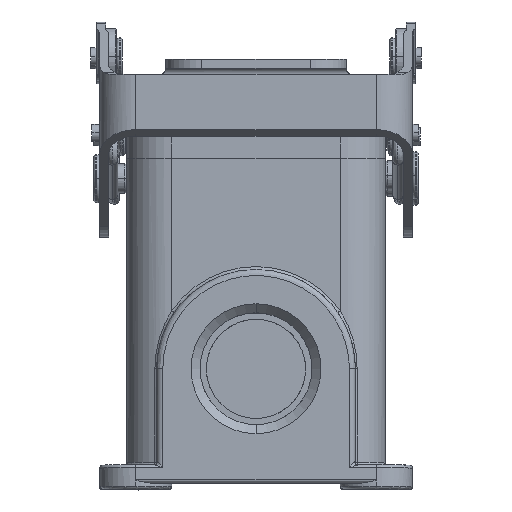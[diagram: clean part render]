
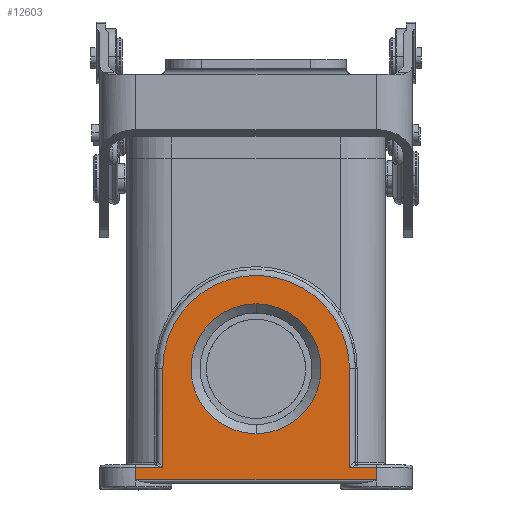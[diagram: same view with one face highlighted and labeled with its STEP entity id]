
A CAD part, top view. The second image highlights one B-rep face of the part: STEP entity #12603.
In plain terms, the highlighted planar face has unit normal (0, 0, 1).
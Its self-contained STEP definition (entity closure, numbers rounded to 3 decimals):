
#1038 = VECTOR ( 'NONE', #30798, 1000. ) ;
#1464 = EDGE_LOOP ( 'NONE', ( #28625, #1999, #10820, #27674, #27957, #6984, #19103, #20120 ) ) ;
#1999 = ORIENTED_EDGE ( 'NONE', *, *, #35138, .T. ) ;
#2131 = CARTESIAN_POINT ( 'NONE',  ( -20., 0., 47. ) ) ;
#2224 = DIRECTION ( 'NONE',  ( -1., 0., 0. ) ) ;
#2284 = VERTEX_POINT ( 'NONE', #11777 ) ;
#2826 = CARTESIAN_POINT ( 'NONE',  ( -15.5, 19., 47. ) ) ;
#3610 = CARTESIAN_POINT ( 'NONE',  ( 15.5, 19., 47. ) ) ;
#4159 = CARTESIAN_POINT ( 'NONE',  ( -15.5, 0., 47. ) ) ;
#4351 = CARTESIAN_POINT ( 'NONE',  ( -20.187, 2.5, 47. ) ) ;
#5042 = DIRECTION ( 'NONE',  ( 1., 0., 0. ) ) ;
#5348 = CARTESIAN_POINT ( 'NONE',  ( 20.266, 0.5, 47. ) ) ;
#5458 = CARTESIAN_POINT ( 'NONE',  ( 15.5, 2.5, 47. ) ) ;
#5465 = EDGE_CURVE ( 'NONE', #12465, #15051, #16905, .T. ) ;
#5919 = EDGE_LOOP ( 'NONE', ( #34493, #11196 ) ) ;
#6519 = CARTESIAN_POINT ( 'NONE',  ( -15.5, 50., 47. ) ) ;
#6652 = CARTESIAN_POINT ( 'NONE',  ( 15.5, 50., 47. ) ) ;
#6984 = ORIENTED_EDGE ( 'NONE', *, *, #14767, .F. ) ;
#7216 = DIRECTION ( 'NONE',  ( 0., -1., 0. ) ) ;
#7300 = CARTESIAN_POINT ( 'NONE',  ( 0., 19., 47. ) ) ;
#7849 = VERTEX_POINT ( 'NONE', #31029 ) ;
#7994 = CARTESIAN_POINT ( 'NONE',  ( -15.5, 2.5, 47. ) ) ;
#8303 = LINE ( 'NONE', #33914, #32239 ) ;
#9127 = DIRECTION ( 'NONE',  ( 0., 0., -1. ) ) ;
#9587 = CARTESIAN_POINT ( 'NONE',  ( -15.5, 19., 47. ) ) ;
#9762 = CARTESIAN_POINT ( 'NONE',  ( 20., 2.5, 47. ) ) ;
#10490 = DIRECTION ( 'NONE',  ( 0., -1., 0. ) ) ;
#10619 = VERTEX_POINT ( 'NONE', #2826 ) ;
#10820 = ORIENTED_EDGE ( 'NONE', *, *, #21843, .F. ) ;
#11196 = ORIENTED_EDGE ( 'NONE', *, *, #36127, .T. ) ;
#11777 = CARTESIAN_POINT ( 'NONE',  ( 20., 0.5, 47. ) ) ;
#12406 = CARTESIAN_POINT ( 'NONE',  ( 15.5, 19., 47. ) ) ;
#12465 = VERTEX_POINT ( 'NONE', #27443 ) ;
#12511 = VECTOR ( 'NONE', #2224, 1000. ) ;
#12603 = ADVANCED_FACE ( 'NONE', ( #19305, #32816 ), #16601, .T. ) ;
#13089 = EDGE_CURVE ( 'NONE', #14765, #34318, #24679, .T. ) ;
#13406 = CARTESIAN_POINT ( 'NONE',  ( 0., 29.8, 47. ) ) ;
#14113 = VECTOR ( 'NONE', #7216, 1000. ) ;
#14280 = EDGE_CURVE ( 'NONE', #22885, #2284, #17377, .T. ) ;
#14578 = CARTESIAN_POINT ( 'NONE',  ( 15.5, 0., 47. ) ) ;
#14765 = VERTEX_POINT ( 'NONE', #30643 ) ;
#14767 = EDGE_CURVE ( 'NONE', #7849, #12465, #8303, .T. ) ;
#15051 = VERTEX_POINT ( 'NONE', #7994 ) ;
#15132 = LINE ( 'NONE', #5348, #20991 ) ;
#16601 = PLANE ( 'NONE',  #29032 ) ;
#16905 = LINE ( 'NONE', #4351, #1038 ) ;
#17377 = LINE ( 'NONE', #33594, #33628 ) ;
#18161 = LINE ( 'NONE', #4159, #14113 ) ;
#19103 = ORIENTED_EDGE ( 'NONE', *, *, #21099, .F. ) ;
#19305 = FACE_BOUND ( 'NONE', #5919, .T. ) ;
#19477 = CARTESIAN_POINT ( 'NONE',  ( -20., 2.5, 47. ) ) ;
#20120 = ORIENTED_EDGE ( 'NONE', *, *, #14280, .F. ) ;
#20128 = DIRECTION ( 'NONE',  ( 0., 1., 0. ) ) ;
#20201 = LINE ( 'NONE', #19477, #12511 ) ;
#20991 = VECTOR ( 'NONE', #34279, 1000. ) ;
#21099 = EDGE_CURVE ( 'NONE', #2284, #7849, #15132, .T. ) ;
#21372 = DIRECTION ( 'NONE',  ( 0., -1., 0. ) ) ;
#21843 = EDGE_CURVE ( 'NONE', #10619, #26948, #26757, .T. ) ;
#22386 = DIRECTION ( 'NONE',  ( 0., 0., 1. ) ) ;
#22885 = VERTEX_POINT ( 'NONE', #9762 ) ;
#22936 = EDGE_CURVE ( 'NONE', #10619, #15051, #18161, .T. ) ;
#23418 = DIRECTION ( 'NONE',  ( 0., -1., 0. ) ) ;
#24679 = CIRCLE ( 'NONE', #33414, 10.8 ) ;
#26757 =( BOUNDED_CURVE ( )  B_SPLINE_CURVE ( 3, ( #9587, #6519, #6652, #3610 ),
 .UNSPECIFIED., .F., .F. ) 
 B_SPLINE_CURVE_WITH_KNOTS ( ( 4, 4 ),
 ( 0., 1. ),
 .UNSPECIFIED. ) 
 CURVE ( )  GEOMETRIC_REPRESENTATION_ITEM ( )  RATIONAL_B_SPLINE_CURVE ( ( 1., 0.333, 0.333, 1. ) ) 
 REPRESENTATION_ITEM ( '' )  );
#26948 = VERTEX_POINT ( 'NONE', #12406 ) ;
#27207 = EDGE_CURVE ( 'NONE', #22885, #35958, #20201, .T. ) ;
#27287 = DIRECTION ( 'NONE',  ( 0., 0., -1. ) ) ;
#27443 = CARTESIAN_POINT ( 'NONE',  ( -20., 2.5, 47. ) ) ;
#27674 = ORIENTED_EDGE ( 'NONE', *, *, #22936, .T. ) ;
#27837 = AXIS2_PLACEMENT_3D ( 'NONE', #31867, #9127, #23418 ) ;
#27957 = ORIENTED_EDGE ( 'NONE', *, *, #5465, .F. ) ;
#28625 = ORIENTED_EDGE ( 'NONE', *, *, #27207, .T. ) ;
#29032 = AXIS2_PLACEMENT_3D ( 'NONE', #2131, #22386, #5042 ) ;
#30423 = CIRCLE ( 'NONE', #27837, 10.8 ) ;
#30643 = CARTESIAN_POINT ( 'NONE',  ( 0., 8.2, 47. ) ) ;
#30798 = DIRECTION ( 'NONE',  ( 1., 0., 0. ) ) ;
#31029 = CARTESIAN_POINT ( 'NONE',  ( -20., 0.5, 47. ) ) ;
#31867 = CARTESIAN_POINT ( 'NONE',  ( 0., 19., 47. ) ) ;
#32239 = VECTOR ( 'NONE', #34527, 1000. ) ;
#32816 = FACE_OUTER_BOUND ( 'NONE', #1464, .T. ) ;
#33414 = AXIS2_PLACEMENT_3D ( 'NONE', #7300, #27287, #21372 ) ;
#33594 = CARTESIAN_POINT ( 'NONE',  ( 20., 0., 47. ) ) ;
#33628 = VECTOR ( 'NONE', #10490, 1000. ) ;
#33914 = CARTESIAN_POINT ( 'NONE',  ( -20., 0., 47. ) ) ;
#34082 = VECTOR ( 'NONE', #20128, 1000. ) ;
#34279 = DIRECTION ( 'NONE',  ( -1., 0., 0. ) ) ;
#34318 = VERTEX_POINT ( 'NONE', #13406 ) ;
#34493 = ORIENTED_EDGE ( 'NONE', *, *, #13089, .T. ) ;
#34527 = DIRECTION ( 'NONE',  ( 0., 1., 0. ) ) ;
#35138 = EDGE_CURVE ( 'NONE', #35958, #26948, #37233, .T. ) ;
#35958 = VERTEX_POINT ( 'NONE', #5458 ) ;
#36127 = EDGE_CURVE ( 'NONE', #34318, #14765, #30423, .T. ) ;
#37233 = LINE ( 'NONE', #14578, #34082 ) ;
